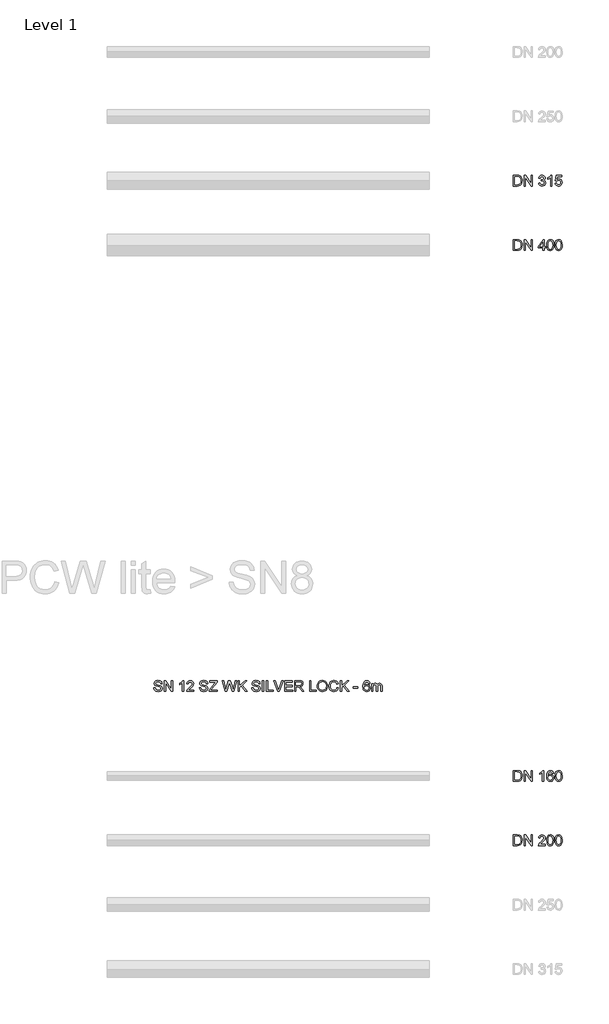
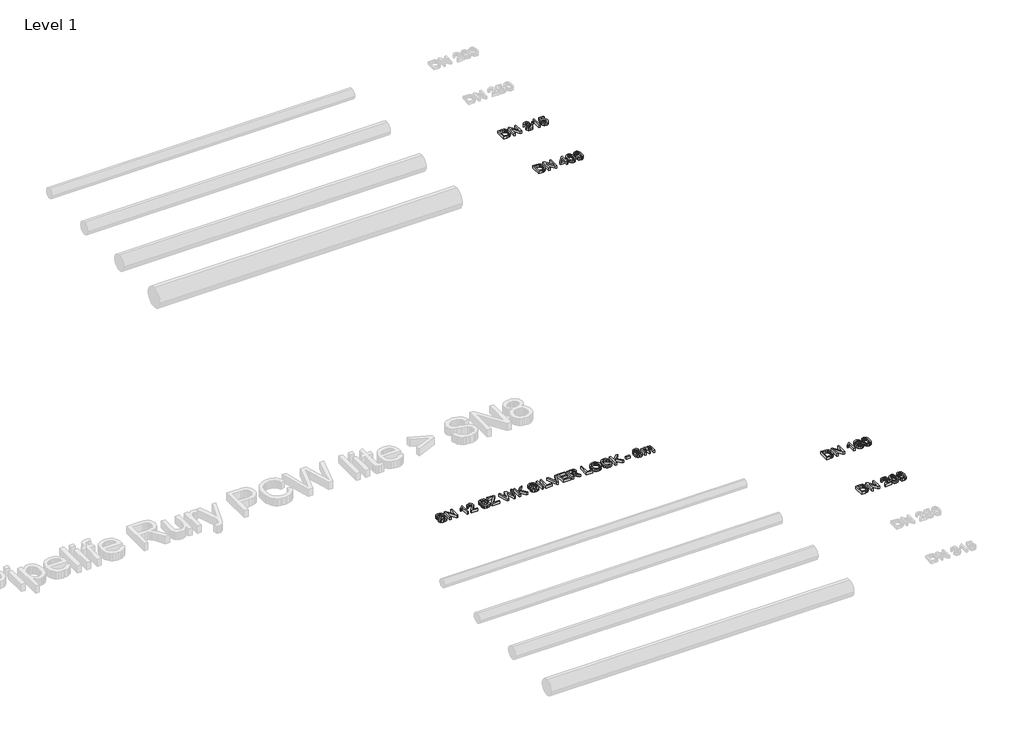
# One storey, part 5 of 8: 5 proxies.
"""IFC4 building model written with IfcOpenShell, lengths in millimetres."""

from ifc_helpers import new_model, si_unit, origin, origin_with_axes, place, context, project, spatial, polyline, outline, extrude, element, save

model = new_model("IFC4")

# Units and contexts
model_context = context("Model", 3, world=origin())
ifc_project = project(units=[si_unit("LENGTHUNIT", "METRE", prefix="MILLI")], contexts=[model_context])

# Site, building, storey
site = spatial("IfcSite", under=ifc_project)
building = spatial("IfcBuilding", under=site)
storey = spatial("IfcBuildingStorey", under=building, Name="Level 1", Elevation=0.0)

# Proxies
placement = place(None, origin())
element("IfcBuildingElementProxy", 1, Name="200mm Arial", ObjectType="200mm Arial", at=placement, inside=storey, context=model_context, shape_type="SweptSolid", body=[
    extrude(outline(polyline([(-2460.6923074, -3113.949573), (-2460.6923074, -2913.0369527), (-2391.3833395, -2913.0369527), (-2355.5271077, -2915.9309577), (-2339.5119782, -2921.5105013), (-2325.9984462, -2930.302881), (-2312.1047695, -2945.606772), (-2302.2087438, -2964.6385338), (-2296.2858437, -2987.0302846), (-2294.3115437, -3012.4141423), (-2299.6580953, -3052.9547382), (-2313.3923565, -3082.2136195), (-2331.7374053, -3100.436041), (-2355.7478369, -3110.5160077), (-2388.0478761, -3113.949573), (-2460.6923074, -3113.949573)]), holes=[polyline([(-2435.5782298, -3088.8354954), (-2391.1380848, -3088.8354954), (-2358.8135202, -3085.2057264), (-2340.1741658, -3074.9540815), (-2331.4492311, -3064.0831685), (-2324.8948002, -3050.0116822), (-2320.792916, -3032.6783089), (-2319.4256212, -3012.0217348), (-2322.1050284, -2984.6513144), (-2330.14325, -2964.4423301), (-2342.0197071, -2950.5609162), (-2356.2138207, -2942.1732067), (-2391.8247979, -2938.1510302), (-2435.5782298, -2938.1510302), (-2435.5782298, -3088.8354954)])]), origin_with_axes(), (0.0, 0.0, 1.0), 50.0),
    extrude(outline(polyline([(-2259.7796871, -3113.949573), (-2259.7796871, -2913.0369527), (-2232.899776, -2913.0369527), (-2127.93078, -3072.2072292), (-2127.93078, -2913.0369527), (-2102.8167025, -2913.0369527), (-2102.8167025, -3113.949573), (-2129.6966136, -3113.949573), (-2234.6656095, -2954.7302454), (-2234.6656095, -3113.949573), (-2259.7796871, -3113.949573)])), origin_with_axes(), (0.0, 0.0, 1.0), 50.0),
    extrude(outline(polyline([(-1989.8033535, -3060.5821582), (-1964.689276, -3057.4428985), (-1959.0668128, -3073.2250361), (-1950.8323875, -3083.8813512), (-1939.5813298, -3089.9514041), (-1924.9089696, -3091.9747551), (-1907.6920922, -3089.1911147), (-1894.3992895, -3080.8401934), (-1885.9012154, -3068.3812565), (-1883.068524, -3053.2735692), (-1885.8766899, -3038.9323028), (-1894.3011876, -3027.3011004), (-1907.0544301, -3019.5939726), (-1922.8488304, -3017.02493), (-1940.4581153, -3019.7717822), (-1937.6622121, -2994.6577047), (-1933.6400356, -2994.9520102), (-1918.593662, -2993.1493885), (-1905.1414437, -2987.7415231), (-1895.6500882, -2978.5935242), (-1892.4863031, -2965.5705016), (-1894.7794342, -2954.7241141), (-1901.6588275, -2945.925603), (-1912.1557271, -2940.0946734), (-1925.3013771, -2938.1510302), (-1938.4715525, -2940.1130675), (-1949.2382322, -2945.9991794), (-1957.0986442, -2955.809366), (-1961.5500163, -2969.5436271), (-1986.6640939, -2966.4043674), (-1979.2696657, -2943.8532011), (-1966.1117531, -2927.0164685), (-1948.1100608, -2916.5318316), (-1926.1842938, -2913.0369527), (-1910.3960249, -2914.7598667), (-1895.8953429, -2919.9286087), (-1883.6693979, -2928.0833263), (-1874.70534, -2938.7641669), (-1869.2055042, -2951.0698196), (-1867.3722255, -2964.0989736), (-1869.1135337, -2976.2390794), (-1874.337458, -2987.2510138), (-1882.9704221, -2996.6320047), (-1894.9388497, -3003.87928), (-1879.2180258, -3010.2313758), (-1867.5684293, -3021.0471064), (-1860.3579422, -3035.7378608), (-1857.9544465, -3053.7150276), (-1862.7614379, -3078.191443), (-1877.1824121, -3098.645682), (-1898.9487635, -3112.478045), (-1925.7918864, -3117.0888326), (-1950.0720981, -3113.1524953), (-1969.8396239, -3101.3434833), (-1983.5861478, -3083.2804773), (-1989.8033535, -3060.5821582)])), origin_with_axes(), (0.0, 0.0, 1.0), 50.0),
    extrude(outline(polyline([(-1741.8018379, -3113.949573), (-1766.9159154, -3113.949573), (-1766.9159154, -2957.3789958), (-1790.7056178, -2974.3260931), (-1817.1440705, -2987.0057592), (-1817.1440705, -2963.2651077), (-1780.3313455, -2939.769711), (-1766.8607331, -2926.1948653), (-1757.9886457, -2913.0369527), (-1741.8018379, -2913.0369527), (-1741.8018379, -3113.949573)])), origin_with_axes(), (0.0, 0.0, 1.0), 50.0),
    extrude(outline(polyline([(-1682.1559037, -3060.5821582), (-1657.0418262, -3057.4428985), (-1652.4310385, -3072.5199289), (-1644.3866855, -3083.3172655), (-1632.9455555, -3089.8103827), (-1618.1444366, -3091.9747551), (-1600.1427443, -3088.9642541), (-1586.6537378, -3079.9327511), (-1578.2292401, -3065.9225785), (-1575.4210742, -3047.9760685), (-1578.0514304, -3031.0780222), (-1585.9424992, -3018.1531014), (-1599.1555942, -3009.9493329), (-1617.7520291, -3007.2147434), (-1639.8004233, -3011.5802764), (-1653.9025665, -3022.9110419), (-1679.016644, -3019.7717822), (-1657.0418262, -2916.1762123), (-1559.7247757, -2916.1762123), (-1559.7247757, -2941.2902899), (-1636.73474, -2941.2902899), (-1647.4768943, -2996.619742), (-1629.5365157, -2985.7304349), (-1610.7377457, -2982.1006659), (-1587.2730058, -2986.601089), (-1567.7936541, -3000.1023582), (-1554.678661, -3020.6792244), (-1550.3069966, -3046.4064386), (-1554.243334, -3071.5205162), (-1566.052346, -3093.0048247), (-1576.487932, -3103.5415782), (-1588.664826, -3111.0678307), (-1602.5830282, -3115.5835821), (-1618.2425384, -3117.0888326), (-1642.9090262, -3113.2199403), (-1662.5600561, -3101.6132634), (-1676.0306685, -3083.6177025), (-1682.1559037, -3060.5821582)])), origin_with_axes(), (0.0, 0.0, 1.0), 50.0),
])
element("IfcBuildingElementProxy", 2, Name="200mm Arial", ObjectType="200mm Arial", at=placement, inside=storey, context=model_context, shape_type="SweptSolid", body=[
    extrude(outline(polyline([(-2460.6923074, -4313.949573), (-2460.6923074, -4113.0369527), (-2391.3833395, -4113.0369527), (-2355.5271077, -4115.9309577), (-2339.5119782, -4121.5105013), (-2325.9984462, -4130.302881), (-2312.1047695, -4145.606772), (-2302.2087438, -4164.6385338), (-2296.2858437, -4187.0302846), (-2294.3115437, -4212.4141423), (-2299.6580953, -4252.9547382), (-2313.3923565, -4282.2136195), (-2331.7374053, -4300.436041), (-2355.7478369, -4310.5160077), (-2388.0478761, -4313.949573), (-2460.6923074, -4313.949573)]), holes=[polyline([(-2435.5782298, -4288.8354954), (-2391.1380848, -4288.8354954), (-2358.8135202, -4285.2057264), (-2340.1741658, -4274.9540815), (-2331.4492311, -4264.0831685), (-2324.8948002, -4250.0116822), (-2320.792916, -4232.6783089), (-2319.4256212, -4212.0217348), (-2322.1050284, -4184.6513144), (-2330.14325, -4164.4423301), (-2342.0197071, -4150.5609162), (-2356.2138207, -4142.1732067), (-2391.8247979, -4138.1510302), (-2435.5782298, -4138.1510302), (-2435.5782298, -4288.8354954)])]), origin_with_axes(), (0.0, 0.0, 1.0), 50.0),
    extrude(outline(polyline([(-2259.7796871, -4313.949573), (-2259.7796871, -4113.0369527), (-2232.899776, -4113.0369527), (-2127.93078, -4272.2072292), (-2127.93078, -4113.0369527), (-2102.8167025, -4113.0369527), (-2102.8167025, -4313.949573), (-2129.6966136, -4313.949573), (-2234.6656095, -4154.7302454), (-2234.6656095, -4313.949573), (-2259.7796871, -4313.949573)])), origin_with_axes(), (0.0, 0.0, 1.0), 50.0),
    extrude(outline(polyline([(-1908.1826015, -4313.949573), (-1908.1826015, -4266.8606776), (-1999.2211326, -4266.8606776), (-1999.2211326, -4241.7466), (-1901.9040822, -4116.1762123), (-1883.068524, -4116.1762123), (-1883.068524, -4241.7466), (-1857.9544465, -4241.7466), (-1857.9544465, -4266.8606776), (-1883.068524, -4266.8606776), (-1883.068524, -4313.949573), (-1908.1826015, -4313.949573)]), holes=[polyline([(-1908.1826015, -4241.7466), (-1908.1826015, -4164.1480245), (-1968.319045, -4241.7466), (-1908.1826015, -4241.7466)])]), origin_with_axes(), (0.0, 0.0, 1.0), 50.0),
    extrude(outline(polyline([(-1835.9796286, -4215.1119436), (-1834.1340873, -4182.9529258), (-1828.5974633, -4157.3054194), (-1819.4249388, -4137.7770168), (-1806.6716963, -4123.9753106), (-1790.2457653, -4115.7715422), (-1770.0551751, -4113.0369527), (-1754.5796058, -4114.6556334), (-1740.7227173, -4119.5116758), (-1729.1344345, -4127.4150073), (-1720.4646821, -4138.1755557), (-1708.6924583, -4167.9004209), (-1704.1307216, -4215.1119436), (-1705.9578688, -4247.0870203), (-1711.4393105, -4272.6732131), (-1720.5566526, -4292.2200098), (-1733.291501, -4306.0768983), (-1749.7542203, -4314.335849), (-1770.0551751, -4317.0888326), (-1796.1502713, -4312.3063667), (-1815.9668481, -4297.9589689), (-1824.7224396, -4282.8298218), (-1830.9764335, -4263.9789353), (-1835.9796286, -4215.1119436)]), holes=[polyline([(-1810.8655511, -4215.0628927), (-1807.9224951, -4254.5672876), (-1799.0933272, -4277.4311536), (-1785.9476773, -4288.3388547), (-1770.0551751, -4291.9747551), (-1754.1626729, -4288.326592), (-1741.0170229, -4277.3821026), (-1732.1878551, -4254.5059739), (-1729.2447991, -4215.0628927), (-1732.0897532, -4176.4475459), (-1740.6246155, -4153.4058703), (-1753.74574, -4141.9647402), (-1770.3494807, -4138.1510302), (-1786.0703046, -4141.5110191), (-1798.7009198, -4151.5909857), (-1807.8243933, -4176.0674012), (-1810.8655511, -4215.0628927)])]), origin_with_axes(), (0.0, 0.0, 1.0), 50.0),
    extrude(outline(polyline([(-1682.1559037, -4215.1119436), (-1680.3103624, -4182.9529258), (-1674.7737383, -4157.3054194), (-1665.6012139, -4137.7770168), (-1652.8479714, -4123.9753106), (-1636.4220403, -4115.7715422), (-1616.2314502, -4113.0369527), (-1600.7558809, -4114.6556334), (-1586.8989924, -4119.5116758), (-1575.3107096, -4127.4150073), (-1566.6409572, -4138.1755557), (-1554.8687334, -4167.9004209), (-1550.3069966, -4215.1119436), (-1552.1341439, -4247.0870203), (-1557.6155856, -4272.6732131), (-1566.7329277, -4292.2200098), (-1579.4677761, -4306.0768983), (-1595.9304954, -4314.335849), (-1616.2314502, -4317.0888326), (-1642.3265464, -4312.3063667), (-1662.1431232, -4297.9589689), (-1670.8987147, -4282.8298218), (-1677.1527086, -4263.9789353), (-1682.1559037, -4215.1119436)]), holes=[polyline([(-1657.0418262, -4215.0628927), (-1654.0987702, -4254.5672876), (-1645.2696023, -4277.4311536), (-1632.1239524, -4288.3388547), (-1616.2314502, -4291.9747551), (-1600.338948, -4288.326592), (-1587.193298, -4277.3821026), (-1578.3641301, -4254.5059739), (-1575.4210742, -4215.0628927), (-1578.2660283, -4176.4475459), (-1586.8008906, -4153.4058703), (-1599.9220151, -4141.9647402), (-1616.5257558, -4138.1510302), (-1632.2465797, -4141.5110191), (-1644.8771949, -4151.5909857), (-1654.0006683, -4176.0674012), (-1657.0418262, -4215.0628927)])]), origin_with_axes(), (0.0, 0.0, 1.0), 50.0),
])
element("IfcBuildingElementProxy", 3, Name="200mm Arial", ObjectType="200mm Arial", at=placement, inside=storey, context=model_context, shape_type="SweptSolid", body=[
    extrude(outline(polyline([(-9164.2244562, -12468.9871574), (-9139.1103787, -12468.9871574), (-9131.0169748, -12494.1257604), (-9122.8867827, -12503.016242), (-9111.2494489, -12510.0182626), (-9097.0246784, -12514.5616053), (-9081.1321762, -12516.0760528), (-9054.8899272, -12511.4897906), (-9037.94283, -12498.8837009), (-9032.3755491, -12482.0347055), (-9036.5448784, -12466.3629325), (-9042.8969742, -12460.1641209), (-9053.614603, -12454.9585907), (-9090.1820733, -12445.3691333), (-9129.5454468, -12432.9837728), (-9142.0473033, -12424.5347497), (-9150.907128, -12414.2953675), (-9156.1862346, -12402.4863554), (-9157.9459368, -12389.3284427), (-9155.7693017, -12374.6192943), (-9149.2393963, -12360.9034272), (-9138.5278988, -12349.2783562), (-9123.8064877, -12340.8415958), (-9106.1358892, -12335.7096419), (-9086.5768298, -12333.9989907), (-9065.3868268, -12335.7893497), (-9046.8455743, -12341.1604268), (-9031.6152597, -12350.0018575), (-9020.3580706, -12362.203277), (-9013.2334226, -12377.0043959), (-9010.4007313, -12393.6449248), (-9035.5148088, -12393.6449248), (-9040.1255965, -12378.6598649), (-9049.7395793, -12367.8441342), (-9064.7614274, -12361.2958347), (-9085.5958111, -12359.1130682), (-9106.9207041, -12361.2713092), (-9121.5501448, -12367.7460324), (-9130.0114307, -12377.274176), (-9132.8318593, -12388.5926788), (-9130.8330338, -12398.2434498), (-9124.8365573, -12406.0057599), (-9110.6608377, -12412.9464668), (-9083.8299775, -12420.0343266), (-9039.3898325, -12432.6404163), (-9025.0730915, -12441.7516271), (-9015.0850954, -12452.9965534), (-9009.2173775, -12466.2525679), (-9007.2614716, -12481.3970434), (-9009.5116831, -12496.878744), (-9016.2623177, -12511.4407397), (-9027.2374639, -12523.973253), (-9042.1612102, -12533.3665066), (-9060.1077202, -12539.2342244), (-9080.1511576, -12541.1901304), (-9104.7563317, -12539.0809402), (-9125.0082355, -12532.7533699), (-9141.139861, -12522.1828939), (-9153.3842001, -12507.3449868), (-9161.244612, -12489.2697181), (-9164.2244562, -12468.9871574)])), origin_with_axes(), (0.0, 0.0, 1.0), 50.0),
    extrude(outline(polyline([(-8969.5903553, -12538.0508707), (-8969.5903553, -12337.1382504), (-8942.7104442, -12337.1382504), (-8837.7414482, -12496.3085269), (-8837.7414482, -12337.1382504), (-8812.6273707, -12337.1382504), (-8812.6273707, -12538.0508707), (-8839.5072818, -12538.0508707), (-8944.4762778, -12378.8315431), (-8944.4762778, -12538.0508707), (-8969.5903553, -12538.0508707)])), origin_with_axes(), (0.0, 0.0, 1.0), 50.0),
    extrude(outline(polyline([(-8605.436231, -12538.0508707), (-8630.5503085, -12538.0508707), (-8630.5503085, -12381.4802935), (-8654.3400109, -12398.4273908), (-8680.7784636, -12411.1070569), (-8680.7784636, -12387.3664054), (-8643.9657386, -12363.8710087), (-8630.4951262, -12350.2961631), (-8621.6230388, -12337.1382504), (-8605.436231, -12337.1382504), (-8605.436231, -12538.0508707)])), origin_with_axes(), (0.0, 0.0, 1.0), 50.0),
    extrude(outline(polyline([(-8417.0806495, -12512.9367931), (-8417.0806495, -12538.0508707), (-8548.9295565, -12538.0508707), (-8546.2317552, -12520.7358914), (-8530.9769152, -12494.0767095), (-8499.5352673, -12464.9649809), (-8456.1742428, -12423.1245354), (-8448.0440507, -12408.7035612), (-8445.3339867, -12394.6749944), (-8447.8907666, -12382.0995615), (-8455.5611062, -12371.6455815), (-8467.3517241, -12364.6006413), (-8482.269339, -12362.2523279), (-8497.9349806, -12364.545459), (-8510.1057433, -12371.4248523), (-8517.9600239, -12382.3509476), (-8520.6762193, -12396.7841845), (-8545.7902968, -12393.6449248), (-8539.7018498, -12369.3524504), (-8526.5378058, -12351.6082755), (-8506.9848777, -12340.7557566), (-8481.7297788, -12337.1382504), (-8456.2907388, -12341.1604268), (-8436.7745989, -12353.2269563), (-8424.3585816, -12371.253174), (-8420.2199092, -12393.1544155), (-8424.683544, -12416.9686433), (-8439.5214512, -12441.5922115), (-8475.5003103, -12476.0014408), (-8504.3913097, -12500.1590252), (-8515.7220751, -12512.9367931), (-8417.0806495, -12512.9367931)])), origin_with_axes(), (0.0, 0.0, 1.0), 50.0),
    extrude(outline(polyline([(-8313.4850796, -12468.9871574), (-8288.3710021, -12468.9871574), (-8280.2775982, -12494.1257604), (-8272.1474061, -12503.016242), (-8260.5100723, -12510.0182626), (-8246.2853018, -12514.5616053), (-8230.3927996, -12516.0760528), (-8204.1505507, -12511.4897906), (-8187.2034534, -12498.8837009), (-8181.6361726, -12482.0347055), (-8185.8055018, -12466.3629325), (-8192.1575976, -12460.1641209), (-8202.8752264, -12454.9585907), (-8239.4426967, -12445.3691333), (-8278.8060702, -12432.9837728), (-8291.3079267, -12424.5347497), (-8300.1677514, -12414.2953675), (-8305.446858, -12402.4863554), (-8307.2065602, -12389.3284427), (-8305.0299251, -12374.6192943), (-8298.5000197, -12360.9034272), (-8287.7885223, -12349.2783562), (-8273.0671111, -12340.8415958), (-8255.3965126, -12335.7096419), (-8235.8374532, -12333.9989907), (-8214.6474503, -12335.7893497), (-8196.1061977, -12341.1604268), (-8180.8758831, -12350.0018575), (-8169.618694, -12362.203277), (-8162.4940461, -12377.0043959), (-8159.6613547, -12393.6449248), (-8184.7754322, -12393.6449248), (-8189.3862199, -12378.6598649), (-8199.0002027, -12367.8441342), (-8214.0220509, -12361.2958347), (-8234.8564345, -12359.1130682), (-8256.1813275, -12361.2713092), (-8270.8107682, -12367.7460324), (-8279.2720541, -12377.274176), (-8282.0924827, -12388.5926788), (-8280.0936572, -12398.2434498), (-8274.0971807, -12406.0057599), (-8259.9214611, -12412.9464668), (-8233.0906009, -12420.0343266), (-8188.6504559, -12432.6404163), (-8174.3337149, -12441.7516271), (-8164.3457188, -12452.9965534), (-8158.478001, -12466.2525679), (-8156.522095, -12481.3970434), (-8158.7723066, -12496.878744), (-8165.5229412, -12511.4407397), (-8176.4980874, -12523.973253), (-8191.4218336, -12533.3665066), (-8209.3683436, -12539.2342244), (-8229.411781, -12541.1901304), (-8254.0169551, -12539.0809402), (-8274.2688589, -12532.7533699), (-8290.4004844, -12522.1828939), (-8302.6448235, -12507.3449868), (-8310.5052355, -12489.2697181), (-8313.4850796, -12468.9871574)])), origin_with_axes(), (0.0, 0.0, 1.0), 50.0),
    extrude(outline(polyline([(-8134.5472772, -12538.0508707), (-8134.5472772, -12512.0048254), (-8031.7855732, -12386.189183), (-8012.263302, -12362.2523279), (-8121.9902384, -12362.2523279), (-8121.9902384, -12337.1382504), (-7980.7235523, -12337.1382504), (-7980.7235523, -12362.2523279), (-8093.1973409, -12499.938296), (-8103.7923424, -12512.9367931), (-7977.5842926, -12512.9367931), (-7977.5842926, -12538.0508707), (-8134.5472772, -12538.0508707)])), origin_with_axes(), (0.0, 0.0, 1.0), 50.0),
    extrude(outline(polyline([(-7834.8951294, -12538.0508707), (-7889.6850212, -12337.1382504), (-7863.7861287, -12337.1382504), (-7832.0011243, -12469.1833612), (-7822.1909378, -12509.9446862), (-7811.6940382, -12473.8922507), (-7771.8646809, -12337.1382504), (-7734.5369211, -12337.1382504), (-7705.5968708, -12436.2701853), (-7684.0635113, -12509.9446862), (-7674.5476304, -12470.3605835), (-7642.4683204, -12337.1382504), (-7616.569428, -12337.1382504), (-7671.4083707, -12538.0508707), (-7698.2392309, -12538.0508707), (-7746.4072468, -12383.0499234), (-7753.1272246, -12361.418462), (-7760.6810682, -12387.4645073), (-7804.581653, -12538.0508707), (-7834.8951294, -12538.0508707)])), origin_with_axes(), (0.0, 0.0, 1.0), 50.0),
    extrude(outline(polyline([(-7591.4553504, -12538.0508707), (-7591.4553504, -12337.1382504), (-7566.3412729, -12337.1382504), (-7566.3412729, -12435.4853704), (-7463.3343142, -12337.1382504), (-7428.2138464, -12337.1382504), (-7514.6906408, -12419.740021), (-7425.0745867, -12538.0508707), (-7455.7804706, -12538.0508707), (-7532.4961293, -12436.7116437), (-7566.3412729, -12468.9871574), (-7566.3412729, -12538.0508707), (-7591.4553504, -12538.0508707)])), origin_with_axes(), (0.0, 0.0, 1.0), 50.0),
    extrude(outline(polyline([(-7337.1753154, -12468.9871574), (-7312.0612378, -12468.9871574), (-7303.9678339, -12494.1257604), (-7295.8376418, -12503.016242), (-7284.2003081, -12510.0182626), (-7269.9755376, -12514.5616053), (-7254.0830354, -12516.0760528), (-7227.8407864, -12511.4897906), (-7210.8936891, -12498.8837009), (-7205.3264083, -12482.0347055), (-7209.4957376, -12466.3629325), (-7215.8478333, -12460.1641209), (-7226.5654621, -12454.9585907), (-7263.1329325, -12445.3691333), (-7302.4963059, -12432.9837728), (-7314.9981624, -12424.5347497), (-7323.8579871, -12414.2953675), (-7329.1370938, -12402.4863554), (-7330.896796, -12389.3284427), (-7328.7201608, -12374.6192943), (-7322.1902554, -12360.9034272), (-7311.478758, -12349.2783562), (-7296.7573468, -12340.8415958), (-7279.0867483, -12335.7096419), (-7259.5276889, -12333.9989907), (-7238.337686, -12335.7893497), (-7219.7964334, -12341.1604268), (-7204.5661188, -12350.0018575), (-7193.3089298, -12362.203277), (-7186.1842818, -12377.0043959), (-7183.3515904, -12393.6449248), (-7208.465668, -12393.6449248), (-7213.0764557, -12378.6598649), (-7222.6904385, -12367.8441342), (-7237.7122866, -12361.2958347), (-7258.5466703, -12359.1130682), (-7279.8715632, -12361.2713092), (-7294.5010039, -12367.7460324), (-7302.9622898, -12377.274176), (-7305.7827184, -12388.5926788), (-7303.7838929, -12398.2434498), (-7297.7874164, -12406.0057599), (-7283.6116969, -12412.9464668), (-7256.7808367, -12420.0343266), (-7212.3406917, -12432.6404163), (-7198.0239507, -12441.7516271), (-7188.0359545, -12452.9965534), (-7182.1682367, -12466.2525679), (-7180.2123307, -12481.3970434), (-7182.4625423, -12496.878744), (-7189.2131769, -12511.4407397), (-7200.1883231, -12523.973253), (-7215.1120694, -12533.3665066), (-7233.0585794, -12539.2342244), (-7253.1020167, -12541.1901304), (-7277.7071908, -12539.0809402), (-7297.9590947, -12532.7533699), (-7314.0907202, -12522.1828939), (-7326.3350592, -12507.3449868), (-7334.1954712, -12489.2697181), (-7337.1753154, -12468.9871574)])), origin_with_axes(), (0.0, 0.0, 1.0), 50.0),
    extrude(outline(polyline([(-7139.4019547, -12538.0508707), (-7139.4019547, -12337.1382504), (-7114.2878772, -12337.1382504), (-7114.2878772, -12538.0508707), (-7139.4019547, -12538.0508707)])), origin_with_axes(), (0.0, 0.0, 1.0), 50.0),
    extrude(outline(polyline([(-7064.0597221, -12538.0508707), (-7064.0597221, -12337.1382504), (-7038.9456446, -12337.1382504), (-7038.9456446, -12512.9367931), (-6938.4893345, -12512.9367931), (-6938.4893345, -12538.0508707), (-7064.0597221, -12538.0508707)])), origin_with_axes(), (0.0, 0.0, 1.0), 50.0),
    extrude(outline(polyline([(-6850.8843687, -12538.0508707), (-6930.837389, -12337.1382504), (-6903.9574778, -12337.1382504), (-6850.4429103, -12481.8875527), (-6839.6026541, -12514.506423), (-6828.9095508, -12481.8875527), (-6775.2478305, -12337.1382504), (-6748.3679193, -12337.1382504), (-6824.9364253, -12538.0508707), (-6850.8843687, -12538.0508707)])), origin_with_axes(), (0.0, 0.0, 1.0), 50.0),
    extrude(outline(polyline([(-6725.0196754, -12538.0508707), (-6725.0196754, -12337.1382504), (-6580.6137295, -12337.1382504), (-6580.6137295, -12362.2523279), (-6699.9055978, -12362.2523279), (-6699.9055978, -12421.898262), (-6586.8922489, -12421.898262), (-6586.8922489, -12447.0123396), (-6699.9055978, -12447.0123396), (-6699.9055978, -12512.9367931), (-6577.4744699, -12512.9367931), (-6577.4744699, -12538.0508707), (-6725.0196754, -12538.0508707)])), origin_with_axes(), (0.0, 0.0, 1.0), 50.0),
    extrude(outline(polyline([(-6539.8033535, -12538.0508707), (-6539.8033535, -12337.1382504), (-6453.2284573, -12337.1382504), (-6429.9599212, -12338.4932824), (-6413.031218, -12342.5583784), (-6400.6581202, -12350.0631711), (-6391.0564002, -12361.7372931), (-6384.8943767, -12376.2134496), (-6382.8403689, -12392.1243459), (-6386.2432774, -12411.9163972), (-6396.4520028, -12428.3239342), (-6413.7731134, -12440.3536755), (-6438.5131775, -12447.0123396), (-6424.2393561, -12457.7544938), (-6403.8832191, -12483.6043354), (-6370.381432, -12538.0508707), (-6399.566737, -12538.0508707), (-6425.7108841, -12496.4066288), (-6444.5954932, -12468.8400046), (-6457.8637705, -12455.816982), (-6469.8076726, -12451.0345161), (-6484.3757996, -12450.1515993), (-6514.689276, -12450.1515993), (-6514.689276, -12538.0508707), (-6539.8033535, -12538.0508707)]), holes=[polyline([(-6514.689276, -12425.0375217), (-6458.4769071, -12425.0375217), (-6429.806637, -12421.4813291), (-6420.3765952, -12416.8582787), (-6413.5217273, -12410.1015127), (-6407.9544465, -12393.0563136), (-6410.6093282, -12380.8058432), (-6418.5739734, -12370.934343), (-6432.2775777, -12364.4228317), (-6452.1493368, -12362.2523279), (-6514.689276, -12362.2523279), (-6514.689276, -12425.0375217)])]), origin_with_axes(), (0.0, 0.0, 1.0), 50.0),
    extrude(outline(polyline([(-6260.4092409, -12538.0508707), (-6260.4092409, -12337.1382504), (-6235.2951634, -12337.1382504), (-6235.2951634, -12512.9367931), (-6134.8388533, -12512.9367931), (-6134.8388533, -12538.0508707), (-6260.4092409, -12538.0508707)])), origin_with_axes(), (0.0, 0.0, 1.0), 50.0),
    extrude(outline(polyline([(-6116.0032951, -12440.2433109), (-6114.329432, -12416.6774034), (-6109.3078428, -12395.8154286), (-6100.9385274, -12377.6573864), (-6089.2214859, -12362.203277), (-6074.8587596, -12349.8639017), (-6058.5523902, -12341.0500622), (-6040.3023775, -12335.7617586), (-6020.1087217, -12333.9989907), (-5993.7561081, -12337.3099286), (-5970.1258213, -12347.2427425), (-5950.5054482, -12363.0984565), (-5936.1825759, -12384.1780948), (-5927.4269844, -12409.4638506), (-5924.5084539, -12437.937917), (-5927.5802685, -12466.7921282), (-5936.7957125, -12492.4335033), (-5951.6458824, -12513.5499298), (-5971.6218747, -12528.8292953), (-5995.0498265, -12538.0999216), (-6020.2558745, -12541.1901304), (-6047.0131583, -12537.7749592), (-6070.7783352, -12527.5294456), (-6090.3496573, -12511.379426), (-6104.5253769, -12490.2507368), (-6113.1338155, -12465.9398682), (-6116.0032951, -12440.2433109)]), holes=[polyline([(-6090.8892176, -12440.4885655), (-6085.8676283, -12471.9179507), (-6070.8028606, -12495.8670685), (-6048.1597238, -12511.0238067), (-6020.4030273, -12516.0760528), (-5992.2416606, -12510.9747558), (-5969.5617356, -12495.6708648), (-5960.8383337, -12484.3983473), (-5954.6073325, -12470.9859829), (-5949.6225314, -12437.7417133), (-5951.756247, -12415.5093781), (-5958.1573937, -12396.2936752), (-5968.6604247, -12380.5789826), (-5983.099793, -12368.8496783), (-6000.5190054, -12361.5472207), (-6019.9615689, -12359.1130682), (-6046.9763701, -12363.8035636), (-6069.9444693, -12377.87505), (-6079.1077967, -12388.8241378), (-6085.6530305, -12402.9094197), (-6090.8892176, -12440.4885655)])]), origin_with_axes(), (0.0, 0.0, 1.0), 50.0),
    extrude(outline(polyline([(-5748.7099111, -12466.6327127), (-5723.5958336, -12473.1074358), (-5735.1841164, -12502.3724485), (-5753.3697497, -12523.7525238), (-5777.2575539, -12536.8307287), (-5805.9523496, -12541.1901304), (-5835.0824722, -12537.8914551), (-5858.2161183, -12527.9954295), (-5875.9480305, -12511.8454099), (-5888.8729513, -12489.7847529), (-5896.7640201, -12463.8490722), (-5899.3943763, -12436.0739816), (-5896.4206635, -12406.778312), (-5887.4995252, -12381.4802935), (-5873.0969451, -12360.983135), (-5853.6789071, -12346.0900456), (-5830.6494942, -12337.0217544), (-5805.4127893, -12333.9989907), (-5777.876822, -12337.9108025), (-5755.1110578, -12349.6462382), (-5737.8267354, -12368.4817963), (-5726.7350933, -12393.6939758), (-5751.8491708, -12399.6781895), (-5760.5557114, -12381.3637975), (-5772.4505625, -12368.8006274), (-5787.6808771, -12361.534958), (-5806.393808, -12359.1130682), (-5827.9639556, -12361.7986068), (-5845.683605, -12369.8552225), (-5859.129692, -12382.4367867), (-5867.8791521, -12398.6971709), (-5872.6800121, -12417.0790079), (-5874.2802988, -12436.0249307), (-5872.3857065, -12459.2260218), (-5866.7019297, -12479.2878533), (-5857.0143705, -12495.4440043), (-5843.1084311, -12506.9280539), (-5826.4372453, -12513.7890531), (-5808.4539471, -12516.0760528), (-5787.4908048, -12512.9613186), (-5770.0225414, -12503.6171159), (-5756.8339718, -12488.1415466), (-5748.7099111, -12466.6327127)])), origin_with_axes(), (0.0, 0.0, 1.0), 50.0),
    extrude(outline(polyline([(-5689.063977, -12538.0508707), (-5689.063977, -12337.1382504), (-5663.9498994, -12337.1382504), (-5663.9498994, -12435.4853704), (-5560.9429408, -12337.1382504), (-5525.822473, -12337.1382504), (-5612.2992673, -12419.740021), (-5522.6832133, -12538.0508707), (-5553.3890971, -12538.0508707), (-5630.1047559, -12436.7116437), (-5663.9498994, -12468.9871574), (-5663.9498994, -12538.0508707), (-5689.063977, -12538.0508707)])), origin_with_axes(), (0.0, 0.0, 1.0), 50.0),
    extrude(outline(polyline([(-5441.0624613, -12478.4049365), (-5441.0624613, -12453.290859), (-5362.580969, -12453.290859), (-5362.580969, -12478.4049365), (-5441.0624613, -12478.4049365)])), origin_with_axes(), (0.0, 0.0, 1.0), 50.0),
    extrude(outline(polyline([(-5133.4150114, -12390.5056651), (-5158.529089, -12393.6449248), (-5168.0449699, -12372.7001766), (-5179.437049, -12364.8642901), (-5193.2080984, -12362.2523279), (-5215.8696293, -12368.3346435), (-5225.3058025, -12377.942495), (-5233.0129303, -12391.1678527), (-5238.2184605, -12409.8746522), (-5240.149841, -12435.9268288), (-5230.0760057, -12424.1729991), (-5218.0033449, -12415.8895228), (-5204.6063089, -12410.9782982), (-5190.559348, -12409.3412233), (-5167.3582569, -12413.8171209), (-5147.8850366, -12427.2448137), (-5134.678073, -12447.7603663), (-5130.2757518, -12473.4998432), (-5132.3481537, -12491.4831414), (-5138.5653594, -12508.1543272), (-5148.4123341, -12522.2932585), (-5161.3740431, -12532.6797935), (-5176.8618751, -12539.0625461), (-5194.2872189, -12541.1901304), (-5222.7796794, -12535.5492731), (-5245.4718672, -12518.6267013), (-5254.1308896, -12505.5178396), (-5260.3159057, -12488.7546833), (-5265.2639185, -12444.2654874), (-5259.7702141, -12394.2457987), (-5252.9030835, -12375.1680516), (-5243.2891007, -12360.0450359), (-5232.8688432, -12350.0233172), (-5220.7869853, -12342.8649468), (-5191.6384686, -12337.1382504), (-5169.602337, -12340.6821802), (-5151.956264, -12351.3139699), (-5139.595429, -12368.1997535), (-5133.4150114, -12390.5056651)]), holes=[polyline([(-5240.149841, -12473.1074358), (-5234.3373055, -12494.8615244), (-5218.8862617, -12510.6559248), (-5196.2492562, -12516.0760528), (-5179.6761723, -12513.2678869), (-5166.6470183, -12504.8433892), (-5158.2041266, -12491.5996374), (-5155.3898293, -12474.3337091), (-5158.1673384, -12457.7606252), (-5166.4998655, -12445.1238787), (-5179.7497487, -12437.1224453), (-5197.2793258, -12434.4553008), (-5213.8278842, -12437.1224453), (-5227.6663786, -12445.1238787), (-5237.0289754, -12457.4540569), (-5240.149841, -12473.1074358)])]), origin_with_axes(), (0.0, 0.0, 1.0), 50.0),
    extrude(outline(polyline([(-5102.0224145, -12538.0508707), (-5102.0224145, -12390.5056651), (-5076.908337, -12390.5056651), (-5076.908337, -12414.7858768), (-5069.3544934, -12403.632921), (-5059.6424087, -12394.8957236), (-5048.1031768, -12389.248735), (-5035.0678914, -12387.3664054), (-5021.1006383, -12389.2855232), (-5009.9047629, -12395.0428764), (-5001.5415789, -12404.2583204), (-4996.0723999, -12416.5517104), (-4986.9182696, -12403.7831395), (-4976.4765523, -12394.6627317), (-4964.747248, -12389.190487), (-4951.7303568, -12387.3664054), (-4932.851879, -12390.4014319), (-4918.8907573, -12399.5065113), (-4910.2639245, -12414.9268982), (-4907.3883136, -12436.9078475), (-4907.3883136, -12538.0508707), (-4932.5023912, -12538.0508707), (-4932.5023912, -12447.6990526), (-4934.8323105, -12426.7297789), (-4943.2690709, -12416.4045576), (-4957.6164687, -12412.480483), (-4971.2219711, -12414.9943433), (-4982.3136133, -12422.5359242), (-4989.6896473, -12435.6202605), (-4992.1483253, -12454.762387), (-4992.1483253, -12538.0508707), (-5017.2624028, -12538.0508707), (-5017.2624028, -12444.9031495), (-5018.7155367, -12430.7029045), (-5023.0749384, -12420.5738869), (-5030.745278, -12414.5038339), (-5042.1312257, -12412.480483), (-5060.7215292, -12417.8760856), (-5068.0791691, -12424.5224869), (-5073.0823642, -12433.6704859), (-5076.908337, -12463.6406058), (-5076.908337, -12538.0508707), (-5102.0224145, -12538.0508707)])), origin_with_axes(), (0.0, 0.0, 1.0), 50.0),
])
element("IfcBuildingElementProxy", 4, Name="200mm Arial", ObjectType="200mm Arial", at=placement, inside=storey, context=model_context, shape_type="SweptSolid", body=[
    extrude(outline(polyline([(-2460.6923074, -14213.949573), (-2460.6923074, -14013.0369527), (-2391.3833395, -14013.0369527), (-2355.5271077, -14015.9309577), (-2339.5119782, -14021.5105013), (-2325.9984462, -14030.302881), (-2312.1047695, -14045.606772), (-2302.2087438, -14064.6385338), (-2296.2858437, -14087.0302846), (-2294.3115437, -14112.4141423), (-2299.6580953, -14152.9547382), (-2313.3923565, -14182.2136195), (-2331.7374053, -14200.436041), (-2355.7478369, -14210.5160077), (-2388.0478761, -14213.949573), (-2460.6923074, -14213.949573)]), holes=[polyline([(-2435.5782298, -14188.8354954), (-2391.1380848, -14188.8354954), (-2358.8135202, -14185.2057264), (-2340.1741658, -14174.9540815), (-2331.4492311, -14164.0831685), (-2324.8948002, -14150.0116822), (-2320.792916, -14132.6783089), (-2319.4256212, -14112.0217348), (-2322.1050284, -14084.6513144), (-2330.14325, -14064.4423301), (-2342.0197071, -14050.5609162), (-2356.2138207, -14042.1732067), (-2391.8247979, -14038.1510302), (-2435.5782298, -14038.1510302), (-2435.5782298, -14188.8354954)])]), origin_with_axes(), (0.0, 0.0, 1.0), 50.0),
    extrude(outline(polyline([(-2259.7796871, -14213.949573), (-2259.7796871, -14013.0369527), (-2232.899776, -14013.0369527), (-2127.93078, -14172.2072292), (-2127.93078, -14013.0369527), (-2102.8167025, -14013.0369527), (-2102.8167025, -14213.949573), (-2129.6966136, -14213.949573), (-2234.6656095, -14054.7302454), (-2234.6656095, -14213.949573), (-2259.7796871, -14213.949573)])), origin_with_axes(), (0.0, 0.0, 1.0), 50.0),
    extrude(outline(polyline([(-1895.6255628, -14213.949573), (-1920.7396403, -14213.949573), (-1920.7396403, -14057.3789958), (-1944.5293427, -14074.3260931), (-1970.9677954, -14087.0057592), (-1970.9677954, -14063.2651077), (-1934.1550704, -14039.769711), (-1920.684458, -14026.1948653), (-1911.8123706, -14013.0369527), (-1895.6255628, -14013.0369527), (-1895.6255628, -14213.949573)])), origin_with_axes(), (0.0, 0.0, 1.0), 50.0),
    extrude(outline(polyline([(-1707.2699812, -14066.4043674), (-1732.3840588, -14069.5436271), (-1741.8999397, -14048.5988789), (-1753.2920188, -14040.7629924), (-1767.0630682, -14038.1510302), (-1789.7245991, -14044.2333458), (-1799.1607723, -14053.8411973), (-1806.8679001, -14067.066555), (-1812.0734303, -14085.7733545), (-1814.0048108, -14111.8255311), (-1803.9309755, -14100.0717013), (-1791.8583147, -14091.7882251), (-1778.4612787, -14086.8770005), (-1764.4143178, -14085.2399256), (-1741.2132267, -14089.7158232), (-1721.7400064, -14103.143516), (-1708.5330428, -14123.6590686), (-1704.1307216, -14149.3985455), (-1706.2031235, -14167.3818437), (-1712.4203292, -14184.0530295), (-1722.2673039, -14198.1919608), (-1735.2290129, -14208.5784958), (-1750.7168449, -14214.9612484), (-1768.1421887, -14217.0888326), (-1796.6346492, -14211.4479754), (-1819.326837, -14194.5254036), (-1827.9858594, -14181.4165418), (-1834.1708755, -14164.6533856), (-1839.1188883, -14120.1641897), (-1833.6251839, -14070.144501), (-1826.7580533, -14051.0667539), (-1817.1440705, -14035.9437382), (-1806.723813, -14025.9220195), (-1794.6419551, -14018.763649), (-1765.4934384, -14013.0369527), (-1743.4573068, -14016.5808825), (-1725.8112338, -14027.2126722), (-1713.4503988, -14044.0984558), (-1707.2699812, -14066.4043674)]), holes=[polyline([(-1814.0048108, -14149.0061381), (-1808.1922753, -14170.7602267), (-1792.7412315, -14186.554627), (-1770.104226, -14191.9747551), (-1753.5311421, -14189.1665892), (-1740.5019881, -14180.7420915), (-1732.0590964, -14167.4983397), (-1729.2447991, -14150.2324114), (-1732.0223082, -14133.6593275), (-1740.3548353, -14121.022581), (-1753.6047185, -14113.0211476), (-1771.1342956, -14110.3540031), (-1787.682854, -14113.0211476), (-1801.5213484, -14121.022581), (-1810.8839452, -14133.3527592), (-1814.0048108, -14149.0061381)])]), origin_with_axes(), (0.0, 0.0, 1.0), 50.0),
    extrude(outline(polyline([(-1682.1559037, -14115.1119436), (-1680.3103624, -14082.9529258), (-1674.7737383, -14057.3054194), (-1665.6012139, -14037.7770168), (-1652.8479714, -14023.9753106), (-1636.4220403, -14015.7715422), (-1616.2314502, -14013.0369527), (-1600.7558809, -14014.6556334), (-1586.8989924, -14019.5116758), (-1575.3107096, -14027.4150073), (-1566.6409572, -14038.1755557), (-1554.8687334, -14067.9004209), (-1550.3069966, -14115.1119436), (-1552.1341439, -14147.0870203), (-1557.6155856, -14172.6732131), (-1566.7329277, -14192.2200098), (-1579.4677761, -14206.0768983), (-1595.9304954, -14214.335849), (-1616.2314502, -14217.0888326), (-1642.3265464, -14212.3063667), (-1662.1431232, -14197.9589689), (-1670.8987147, -14182.8298218), (-1677.1527086, -14163.9789353), (-1682.1559037, -14115.1119436)]), holes=[polyline([(-1657.0418262, -14115.0628927), (-1654.0987702, -14154.5672876), (-1645.2696023, -14177.4311536), (-1632.1239524, -14188.3388547), (-1616.2314502, -14191.9747551), (-1600.338948, -14188.326592), (-1587.193298, -14177.3821026), (-1578.3641301, -14154.5059739), (-1575.4210742, -14115.0628927), (-1578.2660283, -14076.4475459), (-1586.8008906, -14053.4058703), (-1599.9220151, -14041.9647402), (-1616.5257558, -14038.1510302), (-1632.2465797, -14041.5110191), (-1644.8771949, -14051.5909857), (-1654.0006683, -14076.0674012), (-1657.0418262, -14115.0628927)])]), origin_with_axes(), (0.0, 0.0, 1.0), 50.0),
])
element("IfcBuildingElementProxy", 5, Name="200mm Arial", ObjectType="200mm Arial", at=placement, inside=storey, context=model_context, shape_type="SweptSolid", body=[
    extrude(outline(polyline([(-2460.6923074, -15413.949573), (-2460.6923074, -15213.0369527), (-2391.3833395, -15213.0369527), (-2355.5271077, -15215.9309577), (-2339.5119782, -15221.5105013), (-2325.9984462, -15230.302881), (-2312.1047695, -15245.606772), (-2302.2087438, -15264.6385338), (-2296.2858437, -15287.0302846), (-2294.3115437, -15312.4141423), (-2299.6580953, -15352.9547382), (-2313.3923565, -15382.2136195), (-2331.7374053, -15400.436041), (-2355.7478369, -15410.5160077), (-2388.0478761, -15413.949573), (-2460.6923074, -15413.949573)]), holes=[polyline([(-2435.5782298, -15388.8354954), (-2391.1380848, -15388.8354954), (-2358.8135202, -15385.2057264), (-2340.1741658, -15374.9540815), (-2331.4492311, -15364.0831685), (-2324.8948002, -15350.0116822), (-2320.792916, -15332.6783089), (-2319.4256212, -15312.0217348), (-2322.1050284, -15284.6513144), (-2330.14325, -15264.4423301), (-2342.0197071, -15250.5609162), (-2356.2138207, -15242.1732067), (-2391.8247979, -15238.1510302), (-2435.5782298, -15238.1510302), (-2435.5782298, -15388.8354954)])]), origin_with_axes(), (0.0, 0.0, 1.0), 50.0),
    extrude(outline(polyline([(-2259.7796871, -15413.949573), (-2259.7796871, -15213.0369527), (-2232.899776, -15213.0369527), (-2127.93078, -15372.2072292), (-2127.93078, -15213.0369527), (-2102.8167025, -15213.0369527), (-2102.8167025, -15413.949573), (-2129.6966136, -15413.949573), (-2234.6656095, -15254.7302454), (-2234.6656095, -15413.949573), (-2259.7796871, -15413.949573)])), origin_with_axes(), (0.0, 0.0, 1.0), 50.0),
    extrude(outline(polyline([(-1861.0937062, -15388.8354954), (-1861.0937062, -15413.949573), (-1992.9426132, -15413.949573), (-1990.2448119, -15396.6345937), (-1974.9899719, -15369.9754118), (-1943.548324, -15340.8636832), (-1900.1872995, -15299.0232377), (-1892.0571074, -15284.6022634), (-1889.3470434, -15270.5736967), (-1891.9038233, -15257.9982638), (-1899.5741629, -15247.5442838), (-1911.3647808, -15240.4993436), (-1926.2823957, -15238.1510302), (-1941.9480373, -15240.4441613), (-1954.1188, -15247.3235546), (-1961.9730806, -15258.2496499), (-1964.689276, -15272.6828868), (-1989.8033535, -15269.5436271), (-1983.7149065, -15245.2511527), (-1970.5508625, -15227.5069778), (-1950.9979344, -15216.6544589), (-1925.7428355, -15213.0369527), (-1900.3037955, -15217.0591291), (-1880.7876556, -15229.1256586), (-1868.3716383, -15247.1518763), (-1864.2329659, -15269.0531178), (-1868.6966007, -15292.8673456), (-1883.5345079, -15317.4909138), (-1919.513367, -15351.9001431), (-1948.4043664, -15376.0577275), (-1959.7351318, -15388.8354954), (-1861.0937062, -15388.8354954)])), origin_with_axes(), (0.0, 0.0, 1.0), 50.0),
    extrude(outline(polyline([(-1835.9796286, -15315.1119436), (-1834.1340873, -15282.9529258), (-1828.5974633, -15257.3054194), (-1819.4249388, -15237.7770168), (-1806.6716963, -15223.9753106), (-1790.2457653, -15215.7715422), (-1770.0551751, -15213.0369527), (-1754.5796058, -15214.6556334), (-1740.7227173, -15219.5116758), (-1729.1344345, -15227.4150073), (-1720.4646821, -15238.1755557), (-1708.6924583, -15267.9004209), (-1704.1307216, -15315.1119436), (-1705.9578688, -15347.0870203), (-1711.4393105, -15372.6732131), (-1720.5566526, -15392.2200098), (-1733.291501, -15406.0768983), (-1749.7542203, -15414.335849), (-1770.0551751, -15417.0888326), (-1796.1502713, -15412.3063667), (-1815.9668481, -15397.9589689), (-1824.7224396, -15382.8298218), (-1830.9764335, -15363.9789353), (-1835.9796286, -15315.1119436)]), holes=[polyline([(-1810.8655511, -15315.0628927), (-1807.9224951, -15354.5672876), (-1799.0933272, -15377.4311536), (-1785.9476773, -15388.3388547), (-1770.0551751, -15391.9747551), (-1754.1626729, -15388.326592), (-1741.0170229, -15377.3821026), (-1732.1878551, -15354.5059739), (-1729.2447991, -15315.0628927), (-1732.0897532, -15276.4475459), (-1740.6246155, -15253.4058703), (-1753.74574, -15241.9647402), (-1770.3494807, -15238.1510302), (-1786.0703046, -15241.5110191), (-1798.7009198, -15251.5909857), (-1807.8243933, -15276.0674012), (-1810.8655511, -15315.0628927)])]), origin_with_axes(), (0.0, 0.0, 1.0), 50.0),
    extrude(outline(polyline([(-1682.1559037, -15315.1119436), (-1680.3103624, -15282.9529258), (-1674.7737383, -15257.3054194), (-1665.6012139, -15237.7770168), (-1652.8479714, -15223.9753106), (-1636.4220403, -15215.7715422), (-1616.2314502, -15213.0369527), (-1600.7558809, -15214.6556334), (-1586.8989924, -15219.5116758), (-1575.3107096, -15227.4150073), (-1566.6409572, -15238.1755557), (-1554.8687334, -15267.9004209), (-1550.3069966, -15315.1119436), (-1552.1341439, -15347.0870203), (-1557.6155856, -15372.6732131), (-1566.7329277, -15392.2200098), (-1579.4677761, -15406.0768983), (-1595.9304954, -15414.335849), (-1616.2314502, -15417.0888326), (-1642.3265464, -15412.3063667), (-1662.1431232, -15397.9589689), (-1670.8987147, -15382.8298218), (-1677.1527086, -15363.9789353), (-1682.1559037, -15315.1119436)]), holes=[polyline([(-1657.0418262, -15315.0628927), (-1654.0987702, -15354.5672876), (-1645.2696023, -15377.4311536), (-1632.1239524, -15388.3388547), (-1616.2314502, -15391.9747551), (-1600.338948, -15388.326592), (-1587.193298, -15377.3821026), (-1578.3641301, -15354.5059739), (-1575.4210742, -15315.0628927), (-1578.2660283, -15276.4475459), (-1586.8008906, -15253.4058703), (-1599.9220151, -15241.9647402), (-1616.5257558, -15238.1510302), (-1632.2465797, -15241.5110191), (-1644.8771949, -15251.5909857), (-1654.0006683, -15276.0674012), (-1657.0418262, -15315.0628927)])]), origin_with_axes(), (0.0, 0.0, 1.0), 50.0),
])

save(model, "model.ifc")
